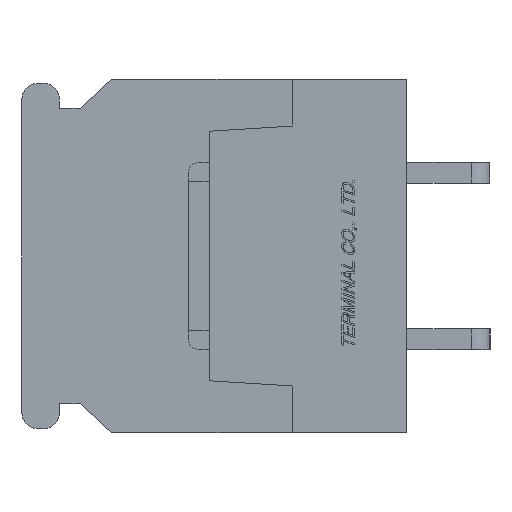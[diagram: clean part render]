
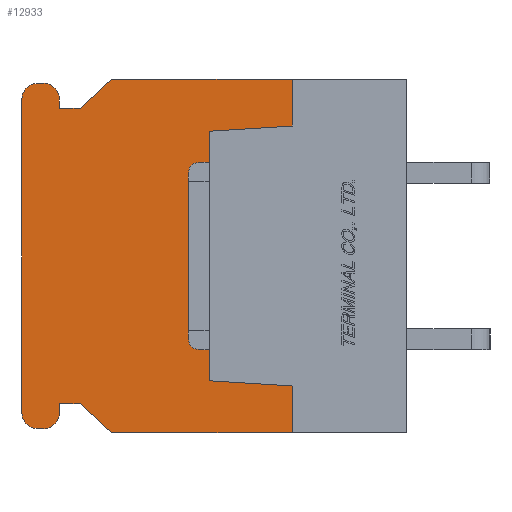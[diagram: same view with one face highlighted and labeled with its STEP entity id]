
A CAD part, left-side view. The second image highlights one B-rep face of the part: STEP entity #12933.
In plain terms, the highlighted planar face has unit normal (-1, 0, 0).
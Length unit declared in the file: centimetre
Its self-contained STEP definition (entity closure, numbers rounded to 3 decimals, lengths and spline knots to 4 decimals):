
#767=CIRCLE('',#13826,0.075);
#768=CIRCLE('',#13829,0.075);
#769=CIRCLE('',#13832,0.075);
#770=CIRCLE('',#13835,0.075);
#1673=VERTEX_POINT('',#19895);
#1674=VERTEX_POINT('',#19897);
#1675=VERTEX_POINT('',#19901);
#1676=VERTEX_POINT('',#19905);
#1677=VERTEX_POINT('',#19909);
#1678=VERTEX_POINT('',#19913);
#1723=VERTEX_POINT('',#20062);
#1724=VERTEX_POINT('',#20066);
#1725=VERTEX_POINT('',#20070);
#1726=VERTEX_POINT('',#20074);
#1727=VERTEX_POINT('',#20078);
#1728=VERTEX_POINT('',#20082);
#1729=VERTEX_POINT('',#20086);
#1730=VERTEX_POINT('',#20090);
#1731=VERTEX_POINT('',#20094);
#1732=VERTEX_POINT('',#20098);
#1733=VERTEX_POINT('',#20102);
#1734=VERTEX_POINT('',#20106);
#1735=VERTEX_POINT('',#20110);
#1736=VERTEX_POINT('',#20114);
#3043=VECTOR('',#15886,1.);
#3046=VECTOR('',#15890,1.);
#3048=VECTOR('',#15893,1.);
#3050=VECTOR('',#15896,1.);
#3052=VECTOR('',#15899,1.);
#3114=VECTOR('',#16019,1.);
#3116=VECTOR('',#16022,1.);
#3118=VECTOR('',#16025,1.);
#3120=VECTOR('',#16028,1.);
#3123=VECTOR('',#16036,1.);
#3126=VECTOR('',#16044,1.);
#3129=VECTOR('',#16052,1.);
#3132=VECTOR('',#16060,1.);
#3134=VECTOR('',#16063,1.);
#3136=VECTOR('',#16066,1.);
#3137=VECTOR('',#16068,1.);
#4503=LINE('',#19896,#3043);
#4506=LINE('',#19902,#3046);
#4508=LINE('',#19906,#3048);
#4510=LINE('',#19910,#3050);
#4512=LINE('',#19914,#3052);
#4574=LINE('',#20063,#3114);
#4576=LINE('',#20067,#3116);
#4578=LINE('',#20071,#3118);
#4580=LINE('',#20075,#3120);
#4583=LINE('',#20083,#3123);
#4586=LINE('',#20091,#3126);
#4589=LINE('',#20099,#3129);
#4592=LINE('',#20107,#3132);
#4594=LINE('',#20111,#3134);
#4596=LINE('',#20115,#3136);
#4597=LINE('',#20117,#3137);
#6313=EDGE_CURVE('',#1674,#1673,#4503,.T.);
#6316=EDGE_CURVE('',#1673,#1675,#4506,.T.);
#6318=EDGE_CURVE('',#1675,#1676,#4508,.T.);
#6320=EDGE_CURVE('',#1676,#1677,#4510,.T.);
#6322=EDGE_CURVE('',#1677,#1678,#4512,.T.);
#6396=EDGE_CURVE('',#1723,#1678,#4574,.T.);
#6398=EDGE_CURVE('',#1724,#1723,#4576,.T.);
#6400=EDGE_CURVE('',#1725,#1724,#4578,.T.);
#6402=EDGE_CURVE('',#1726,#1725,#4580,.T.);
#6404=EDGE_CURVE('',#1727,#1726,#767,.T.);
#6406=EDGE_CURVE('',#1728,#1727,#4583,.T.);
#6408=EDGE_CURVE('',#1729,#1728,#768,.T.);
#6410=EDGE_CURVE('',#1730,#1729,#4586,.T.);
#6412=EDGE_CURVE('',#1731,#1730,#769,.T.);
#6414=EDGE_CURVE('',#1732,#1731,#4589,.T.);
#6416=EDGE_CURVE('',#1733,#1732,#770,.T.);
#6418=EDGE_CURVE('',#1734,#1733,#4592,.T.);
#6420=EDGE_CURVE('',#1735,#1734,#4594,.T.);
#6422=EDGE_CURVE('',#1736,#1735,#4596,.T.);
#6423=EDGE_CURVE('',#1674,#1736,#4597,.T.);
#9775=ORIENTED_EDGE('',*,*,#6322,.T.);
#9776=ORIENTED_EDGE('',*,*,#6396,.F.);
#9777=ORIENTED_EDGE('',*,*,#6398,.F.);
#9778=ORIENTED_EDGE('',*,*,#6400,.F.);
#9779=ORIENTED_EDGE('',*,*,#6402,.F.);
#9780=ORIENTED_EDGE('',*,*,#6404,.F.);
#9781=ORIENTED_EDGE('',*,*,#6406,.F.);
#9782=ORIENTED_EDGE('',*,*,#6408,.F.);
#9783=ORIENTED_EDGE('',*,*,#6410,.F.);
#9784=ORIENTED_EDGE('',*,*,#6412,.F.);
#9785=ORIENTED_EDGE('',*,*,#6414,.F.);
#9786=ORIENTED_EDGE('',*,*,#6416,.F.);
#9787=ORIENTED_EDGE('',*,*,#6418,.F.);
#9788=ORIENTED_EDGE('',*,*,#6420,.F.);
#9789=ORIENTED_EDGE('',*,*,#6422,.F.);
#9790=ORIENTED_EDGE('',*,*,#6423,.F.);
#9791=ORIENTED_EDGE('',*,*,#6313,.T.);
#9792=ORIENTED_EDGE('',*,*,#6316,.T.);
#9793=ORIENTED_EDGE('',*,*,#6318,.T.);
#9794=ORIENTED_EDGE('',*,*,#6320,.T.);
#11381=EDGE_LOOP('',(#9775,#9776,#9777,#9778,#9779,#9780,#9781,#9782,#9783,
#9784,#9785,#9786,#9787,#9788,#9789,#9790,#9791,#9792,#9793,#9794));
#12193=FACE_BOUND('',#11381,.T.);
#12933=ADVANCED_FACE('',(#12193),#21969,.F.);
#13826=AXIS2_PLACEMENT_3D('',#20079,#16032,#16033);
#13829=AXIS2_PLACEMENT_3D('',#20087,#16040,#16041);
#13832=AXIS2_PLACEMENT_3D('',#20095,#16048,#16049);
#13835=AXIS2_PLACEMENT_3D('',#20103,#16056,#16057);
#13840=AXIS2_PLACEMENT_3D('',#20118,#16069,$);
#15886=DIRECTION('',(0.,0.,1.));
#15890=DIRECTION('',(0.,0.998,0.062));
#15893=DIRECTION('',(0.,0.,1.));
#15896=DIRECTION('',(0.,-0.998,0.062));
#15899=DIRECTION('',(0.,0.,1.));
#16019=DIRECTION('',(0.,-1.,0.));
#16022=DIRECTION('',(0.,-0.731,0.682));
#16025=DIRECTION('',(0.,-1.,0.));
#16028=DIRECTION('',(0.,0.,-1.));
#16032=DIRECTION('',(1.,0.,0.));
#16033=DIRECTION('',(0.,0.,-0.075));
#16036=DIRECTION('',(0.,-1.,0.));
#16040=DIRECTION('',(1.,0.,0.));
#16041=DIRECTION('',(0.,0.,-0.075));
#16044=DIRECTION('',(0.,0.,1.));
#16048=DIRECTION('',(1.,0.,0.));
#16049=DIRECTION('',(0.,0.,-0.075));
#16052=DIRECTION('',(0.,1.,0.));
#16056=DIRECTION('',(1.,0.,0.));
#16057=DIRECTION('',(0.,0.,-0.075));
#16060=DIRECTION('',(0.,0.,-1.));
#16063=DIRECTION('',(0.,1.,0.));
#16066=DIRECTION('',(0.,0.731,0.682));
#16068=DIRECTION('',(0.,1.,0.));
#16069=DIRECTION('',(1.,0.,0.));
#19895=CARTESIAN_POINT('',(0.,0.55,-0.625));
#19896=CARTESIAN_POINT('',(0.,0.55,-0.3688));
#19897=CARTESIAN_POINT('',(0.,0.55,-0.85));
#19901=CARTESIAN_POINT('',(0.,0.95,-0.6));
#19902=CARTESIAN_POINT('',(0.,0.8629,-0.6054));
#19905=CARTESIAN_POINT('',(0.,0.95,0.6));
#19906=CARTESIAN_POINT('',(0.,0.95,0.));
#19909=CARTESIAN_POINT('',(0.,0.55,0.625));
#19910=CARTESIAN_POINT('',(0.,0.8629,0.6054));
#19913=CARTESIAN_POINT('',(0.,0.55,0.85));
#19914=CARTESIAN_POINT('',(0.,0.55,0.3687));
#20062=CARTESIAN_POINT('',(0.,1.42,0.85));
#20063=CARTESIAN_POINT('',(0.,1.42,0.85));
#20066=CARTESIAN_POINT('',(0.,1.57,0.71));
#20067=CARTESIAN_POINT('',(0.,1.57,0.71));
#20070=CARTESIAN_POINT('',(0.,1.67,0.71));
#20071=CARTESIAN_POINT('',(0.,1.67,0.71));
#20074=CARTESIAN_POINT('',(0.,1.67,0.755));
#20075=CARTESIAN_POINT('',(0.,1.67,0.755));
#20078=CARTESIAN_POINT('',(0.,1.745,0.83));
#20079=CARTESIAN_POINT('',(0.,1.745,0.755));
#20082=CARTESIAN_POINT('',(0.,1.775,0.83));
#20083=CARTESIAN_POINT('',(0.,1.775,0.83));
#20086=CARTESIAN_POINT('',(0.,1.85,0.755));
#20087=CARTESIAN_POINT('',(0.,1.775,0.755));
#20090=CARTESIAN_POINT('',(0.,1.85,-0.755));
#20091=CARTESIAN_POINT('',(0.,1.85,-0.755));
#20094=CARTESIAN_POINT('',(0.,1.775,-0.83));
#20095=CARTESIAN_POINT('',(0.,1.775,-0.755));
#20098=CARTESIAN_POINT('',(0.,1.745,-0.83));
#20099=CARTESIAN_POINT('',(0.,1.745,-0.83));
#20102=CARTESIAN_POINT('',(0.,1.67,-0.755));
#20103=CARTESIAN_POINT('',(0.,1.745,-0.755));
#20106=CARTESIAN_POINT('',(0.,1.67,-0.71));
#20107=CARTESIAN_POINT('',(0.,1.67,-0.71));
#20110=CARTESIAN_POINT('',(0.,1.57,-0.71));
#20111=CARTESIAN_POINT('',(0.,1.57,-0.71));
#20114=CARTESIAN_POINT('',(0.,1.42,-0.85));
#20115=CARTESIAN_POINT('',(0.,1.42,-0.85));
#20117=CARTESIAN_POINT('',(0.,0.,-0.85));
#20118=CARTESIAN_POINT('',(0.,0.9383,0.));
#21969=PLANE('',#13840);
